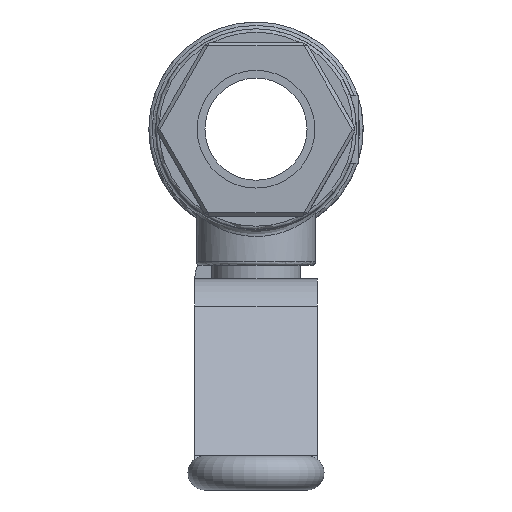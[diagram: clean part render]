
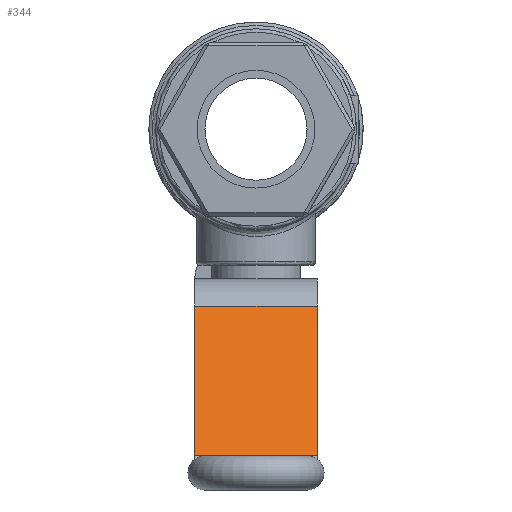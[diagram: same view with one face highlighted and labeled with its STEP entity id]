
A CAD part, left-side view. The second image highlights one B-rep face of the part: STEP entity #344.
In plain terms, the highlighted planar face has unit normal (-0.866, 0, 0.5).
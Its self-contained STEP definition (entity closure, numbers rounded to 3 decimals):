
#344 = ADVANCED_FACE( '', ( #982 ), #983, .T. );
#982 = FACE_OUTER_BOUND( '', #1976, .T. );
#983 = PLANE( '', #1977 );
#1976 = EDGE_LOOP( '', ( #4463, #4464, #4465, #4466 ) );
#1977 = AXIS2_PLACEMENT_3D( '', #4467, #4468, #4469 );
#4463 = ORIENTED_EDGE( '', *, *, #7579, .F. );
#4464 = ORIENTED_EDGE( '', *, *, #7580, .F. );
#4465 = ORIENTED_EDGE( '', *, *, #7581, .T. );
#4466 = ORIENTED_EDGE( '', *, *, #7582, .T. );
#4467 = CARTESIAN_POINT( '', ( -47.6, -9., -26. ) );
#4468 = DIRECTION( '', ( -0.866, 0., 0.5 ) );
#4469 = DIRECTION( '', ( 0.5, 0., 0.866 ) );
#7579 = EDGE_CURVE( '', #8615, #8616, #8617, .T. );
#7580 = EDGE_CURVE( '', #8618, #8615, #8619, .T. );
#7581 = EDGE_CURVE( '', #8618, #8620, #8621, .T. );
#7582 = EDGE_CURVE( '', #8620, #8616, #8622, .T. );
#8615 = VERTEX_POINT( '', #10163 );
#8616 = VERTEX_POINT( '', #10164 );
#8617 = LINE( '', #10165, #10166 );
#8618 = VERTEX_POINT( '', #10167 );
#8619 = LINE( '', #10168, #10169 );
#8620 = VERTEX_POINT( '', #10170 );
#8621 = LINE( '', #10171, #10172 );
#8622 = LINE( '', #10173, #10174 );
#10163 = CARTESIAN_POINT( '', ( -60.302, 9., -48. ) );
#10164 = CARTESIAN_POINT( '', ( -47.6, 9., -26. ) );
#10165 = CARTESIAN_POINT( '', ( -47.6, 9., -26. ) );
#10166 = VECTOR( '', #14230, 1000. );
#10167 = CARTESIAN_POINT( '', ( -60.302, -9., -48. ) );
#10168 = CARTESIAN_POINT( '', ( -60.302, -9., -48. ) );
#10169 = VECTOR( '', #14231, 1000. );
#10170 = CARTESIAN_POINT( '', ( -47.6, -9., -26. ) );
#10171 = CARTESIAN_POINT( '', ( -47.6, -9., -26. ) );
#10172 = VECTOR( '', #14232, 1000. );
#10173 = CARTESIAN_POINT( '', ( -47.6, -9., -26. ) );
#10174 = VECTOR( '', #14233, 1000. );
#14230 = DIRECTION( '', ( 0.5, 0., 0.866 ) );
#14231 = DIRECTION( '', ( 0., 1., 0. ) );
#14232 = DIRECTION( '', ( 0.5, 0., 0.866 ) );
#14233 = DIRECTION( '', ( 0., 1., 0. ) );
